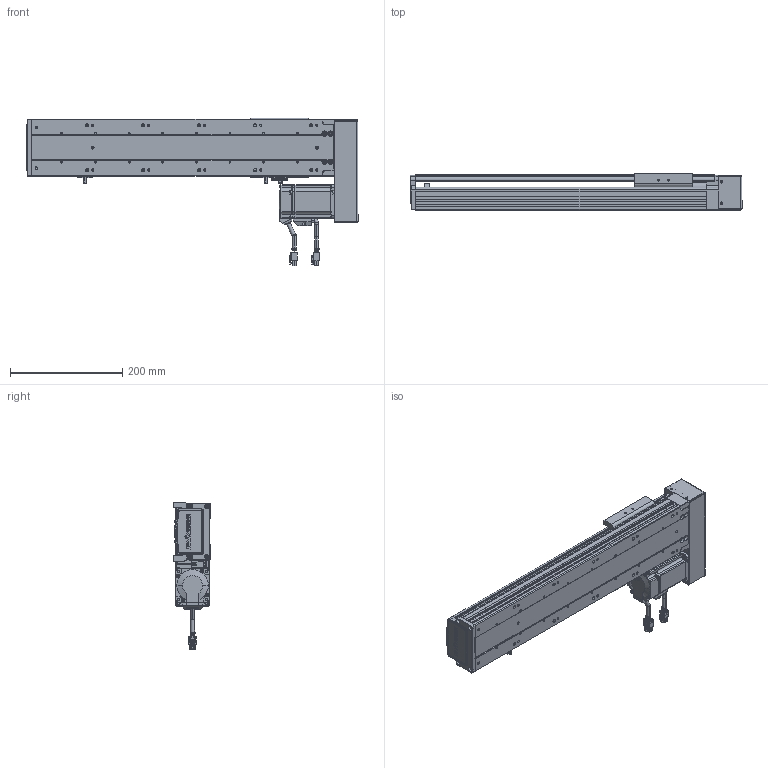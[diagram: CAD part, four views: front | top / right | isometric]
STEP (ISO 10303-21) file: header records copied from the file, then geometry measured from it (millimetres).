
FILE_DESCRIPTION (( 'STEP AP203' ), '1' );
FILE_NAME ('RY100S-L1620-300-RK(15双轨).SLDASM_350.step', '2021-02-20T08:47:50', ( '盈信电脑' ), ( '东莞市道滘镇水果街19号' ), 'SwSTEP 2.0', 'SolidWorks 2012', '' );
FILE_SCHEMA (( 'CONFIG_CONTROL_DESIGN' ));
Length unit declared in the file: millimetre
Products named in the file (25): RY100S铝滑块（15双轨单滑块）底组装导轨; RY100S-L1620-300-RK(15邧寢).SLDASM_350; 7; 3M30喘15遵; 蚾饜极1^RY100S-L1620-300-RK(15邧寢); 侂狟200W萇儂; 6; 4; 5; 1; 2; 肮祭湍3M遵15笚酗282; 3; RY100S左右折电机罩（15双轨）; RY100S转折电机安装板（15双轨）; RY80肮祭湍覃踡啣; RY80肮祭湍芢雄輸; 滅袉蝶18-24; RY100綴裔啣; RY100S转折电机端支撑座(15双轨); RY100俋离覜茼え; RY100S-300-LK转折型材上盖(15双轨)_350; 覜茼ん672; 滅袉蝶18-10; RY100S-350-LK型材底座(低组15双轨)_350
Assembly tree (27 placements, depth 4):
  RY100S-L1620-300-RK(15邧寢).SLDASM_350
    RY100S-350-LK型材底座(低组15双轨)_350
    RY100S-300-LK转折型材上盖(15双轨)_350
    覜茼ん672  x3
    滅袉蝶18-10
    RY100俋离覜茼え
    RY100S转折电机端支撑座(15双轨)
    滅袉蝶18-24
    RY100綴裔啣
    蚾饜极1^RY100S-L1620-300-RK(15邧寢)
      RY80肮祭湍覃踡啣
      RY80肮祭湍芢雄輸  x2
      RY100S左右折电机罩（15双轨）
      RY100S转折电机安装板（15双轨）
      肮祭湍3M遵15笚酗282
      侂狟200W萇儂
        1
        2
        3
        4
        5
        6
        7
      3M30喘15遵
    RY100S铝滑块（15双轨单滑块）底组装导轨
Bounding box: 592.5 x 65 x 263.3 mm (x, y, z)
Volume: 1679484.4 mm3; surface area: 633140.1 mm2
Topology: 25 solids, 25 shells, 3148 faces, 8453 edges, 5444 vertices
Faces by surface type: plane 1680, cylinder 1185, cone 169, bspline 114
Entity records: 101902 total; most frequent: CARTESIAN_POINT 25201, ORIENTED_EDGE 15610, DIRECTION 15176, EDGE_CURVE 7805, AXIS2_PLACEMENT_3D 5155, VERTEX_POINT 5080, LINE 4866, VECTOR 4866
